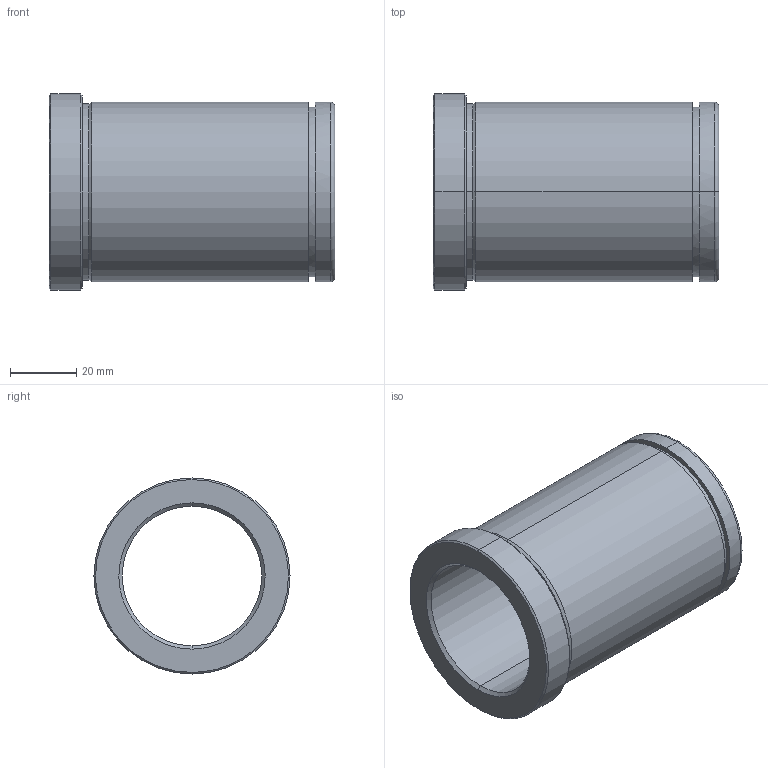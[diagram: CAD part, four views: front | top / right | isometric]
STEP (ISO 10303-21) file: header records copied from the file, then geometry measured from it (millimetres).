
FILE_DESCRIPTION(('CATIA V5 STEP Exchange'),'2;1');
FILE_NAME('C:\Users\Utente\Desktop\IO LAVORO\3D X SITO CF\X SITO\PLASTICA\553\553-42X86.stp','2021-06-08T17:52:46+00:00',('none'),('none'),'CATIA Version 5 Release 20 GA (IN-10)','CATIA V5 STEP AP203','none');
FILE_SCHEMA(('CONFIG_CONTROL_DESIGN'));
Length unit declared in the file: millimetre
Products named in the file (1): 553-42X86
Bounding box: 86 x 59 x 59 mm (x, y, z)
Volume: 81165.1 mm3; surface area: 28952.6 mm2
Topology: 1 solids, 1 shells, 29 faces, 92 edges, 68 vertices
Faces by surface type: cylinder 12, cone 8, plane 5, torus 4
Entity records: 1222 total; most frequent: CARTESIAN_POINT 368, ORIENTED_EDGE 184, DIRECTION 136, EDGE_CURVE 92, AXIS2_PLACEMENT_3D 88, VERTEX_POINT 68, CIRCLE 58, EDGE_LOOP 34
